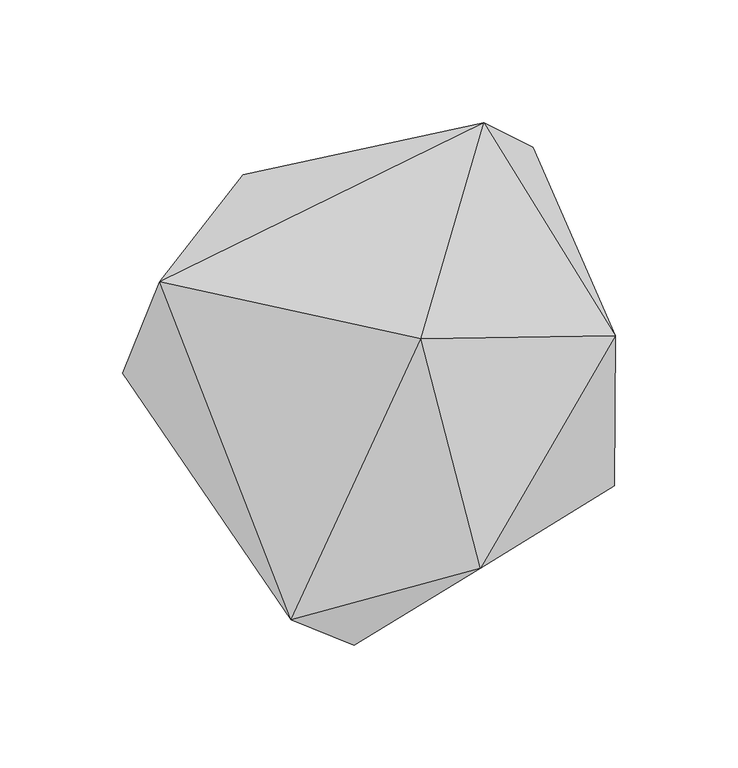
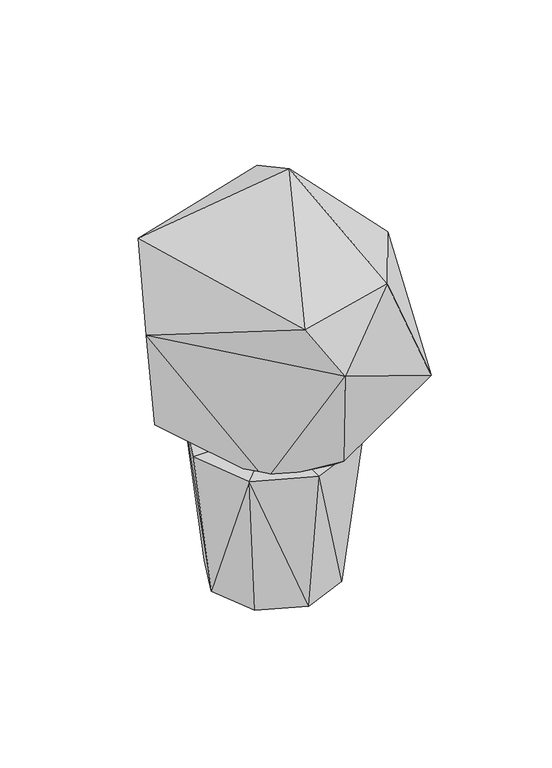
"""IFC4 building model written with IfcOpenShell, lengths in millimetres: geographic element geometry, Enscape AssetDefinition - Rosemary, Potted 1 : Enscape AssetDefinition - Rosemary, Potted 1."""

from ifc_helpers import new_model, si_unit, origin, place, context, project, spatial, faceted_brep, source, transform, mapped, element, save


def geographic_element_3e976fe9(model_context):
    return source(origin(), model_context, "Body", "Brep", [
        faceted_brep([(19.0469995, 10.8460002, 325.5249858), (43.4160009, -82.6279968, 276.7139971), (98.3529985, 12.1309999, 243.9099997), (-34.0569988, -103.7330031, 278.0970037), (-8.2099997, -114.1289994, 236.1260056), (97.9039967, -48.9370003, 160.164997), (44.6529984, 99.0779996, 265.9940124), (-87.6950026, 34.1759995, 290.2800143), (-102.7719975, -3.205, 236.3750041), (-28.3700004, -39.8520008, 110.413), (16.7190004, -68.3550015, 127.9689968), (67.3199967, -4.8310002, 133.9949965), (4.468, 14.3320002, 60.4089983), (-87.6519978, 11.4409998, 146.6780007), (-69.5570037, 41.3290001, 137.9519999), (5.134, 52.7319983, 93.9420015), (64.6610036, 89.0420005, 166.1430001), (-53.5340011, 77.8760016, 239.8629934)], [[[0, 1, 2]], [[3, 4, 1]], [[5, 1, 4]], [[1, 0, 3]], [[1, 5, 2]], [[0, 2, 6]], [[3, 0, 7]], [[0, 6, 7]], [[3, 7, 8]], [[4, 3, 8]], [[9, 10, 4]], [[10, 5, 4]], [[8, 9, 4]], [[10, 11, 5]], [[11, 2, 5]], [[9, 12, 10]], [[10, 12, 11]], [[8, 13, 9]], [[14, 12, 9]], [[9, 13, 14]], [[14, 15, 12]], [[15, 11, 12]], [[16, 2, 11]], [[16, 11, 15]], [[6, 16, 15]], [[14, 17, 15]], [[15, 17, 6]], [[8, 14, 13]], [[14, 8, 17]], [[8, 7, 17]], [[7, 6, 17]], [[6, 2, 16]]]),
        faceted_brep([(34.7919986, 34.7919986, 0.0), (0.0, 49.203001, 0.0), (44.9360013, 44.9360013, 118.1510016), (0.0, 0.0, 0.0), (-34.7919986, 34.7919986, 0.0), (-44.9360013, 44.9360013, 118.1510016), (0.0, 63.548997, 118.1510016), (63.548997, 0.0, 118.1510016), (0.0, 0.0, 118.5289994), (49.203001, 0.0, 0.0), (44.9360013, -44.9360013, 118.1510016), (34.7919986, -34.7919986, 0.0), (0.0, -63.548997, 118.1510016), (0.0, -49.203001, 0.0), (-44.9360013, -44.9360013, 118.1510016), (-34.7919986, -34.7919986, 0.0), (-63.548997, 0.0, 118.1510016), (-49.203001, 0.0, 0.0)], [[[0, 1, 2]], [[3, 4, 1]], [[4, 5, 1]], [[3, 1, 0]], [[2, 1, 6]], [[1, 5, 6]], [[7, 2, 8]], [[8, 2, 6]], [[2, 7, 0]], [[3, 0, 9]], [[0, 7, 9]], [[8, 10, 7]], [[10, 9, 7]], [[3, 9, 11]], [[11, 9, 10]], [[10, 12, 11]], [[12, 10, 8]], [[3, 11, 13]], [[11, 12, 13]], [[14, 12, 8]], [[12, 14, 13]], [[3, 13, 15]], [[13, 14, 15]], [[16, 17, 14]], [[8, 16, 14]], [[14, 17, 15]], [[3, 15, 17]], [[4, 17, 5]], [[3, 17, 4]], [[5, 17, 16]], [[16, 8, 5]], [[6, 5, 8]]]),
    ])


if __name__ == "__main__":
    model = new_model("IFC4")
    model_context = context("Model", 3, world=origin())
    ifc_project = project(units=[si_unit("LENGTHUNIT", "METRE", prefix="MILLI")], contexts=[model_context])
    site = spatial("IfcSite", under=ifc_project)
    building = spatial("IfcBuilding", under=site)
    placement = place(None, origin())
    geographic_element_shape = geographic_element_3e976fe9(model_context)
    element("IfcGeographicElement", 1, ObjectType="Enscape AssetDefinition - Rosemary, Potted 1 : Enscape AssetDefinition - Rosemary, Potted 1", at=placement, inside=building, context=model_context, shape_type="MappedRepresentation", body=[
        mapped(geographic_element_shape, transform((0.0, 0.0, 0.0), x_axis=(1.0, 0.0, 0.0), y_axis=(0.0, 1.0, 0.0), z_axis=(0.0, 0.0, 1.0))),
    ])
    save(model, "model.ifc")
